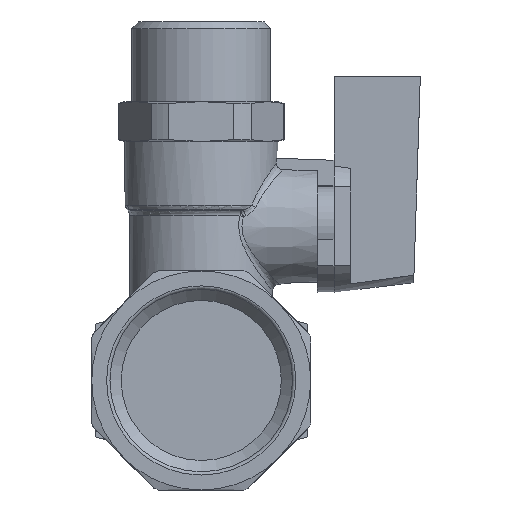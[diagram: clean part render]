
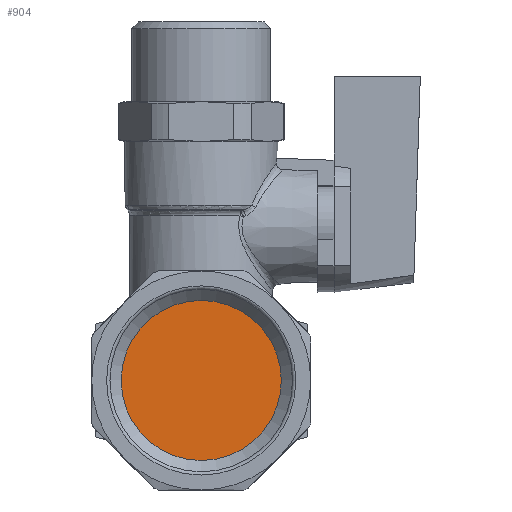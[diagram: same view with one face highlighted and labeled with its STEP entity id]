
A CAD part, front view. The second image highlights one B-rep face of the part: STEP entity #904.
In plain terms, the highlighted planar face has unit normal (0, -1, 0).
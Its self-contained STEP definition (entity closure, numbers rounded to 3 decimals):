
#904=ADVANCED_FACE('',(#9986),#9988,.T.);
#9986=FACE_BOUND('',#9987,.T.);
#9987=EDGE_LOOP('',(#16935));
#9988=PLANE('',#9989);
#9989=AXIS2_PLACEMENT_3D('',#9990,#9991,#9992);
#9990=CARTESIAN_POINT('',(0.,17.5,0.));
#9991=DIRECTION('',(0.,-1.,0.));
#9992=DIRECTION('',(1.,0.,0.));
#16935=ORIENTED_EDGE('',*,*,#19680,.T.);
#19680=EDGE_CURVE('',#23732,#23732,#23733,.T.);
#23732=VERTEX_POINT('',#43049);
#23733=CIRCLE('',#43050,12.059);
#43049=CARTESIAN_POINT('',(12.059,17.5,0.));
#43050=AXIS2_PLACEMENT_3D('',#43051,#43052,#43053);
#43051=CARTESIAN_POINT('',(0.,17.5,0.));
#43052=DIRECTION('',(0.,-1.,0.));
#43053=DIRECTION('',(1.,0.,0.));
